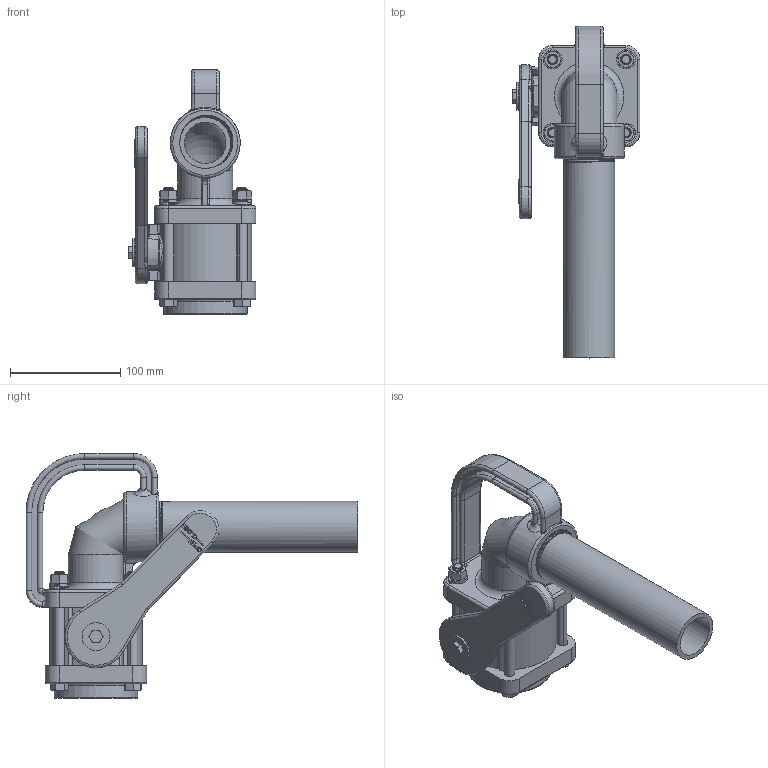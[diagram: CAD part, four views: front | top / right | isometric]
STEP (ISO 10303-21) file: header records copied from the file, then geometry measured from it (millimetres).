
FILE_DESCRIPTION(/* description */ ('Alibre Inc.'),/* implementation_level */ '2;1');
FILE_NAME(/* name */ 'export0',/* time_stamp */ '2017-07-12T09:12:35-04:00',/* author */ (''),/* organization */ (''),/* preprocessor_version */ 'ST-DEVELOPER v14',/* originating_system */ 'Alibre',/* authorisation */ '');
FILE_SCHEMA (('CONFIG_CONTROL_DESIGN'));
Length unit declared in the file: centimetre
Products named in the file (16): ID_1; ID_2; ID_3; ID_4; ID_5; ID_6; ID_7; ID_8; ID_9; ID_10; ID_11; ID_12; ID_13
Bounding box: 116 x 301.22 x 222.25 mm (x, y, z)
Volume: 842102.9 mm3; surface area: 287826.7 mm2
Topology: 26 solids, 26 shells, 1125 faces, 2882 edges, 1837 vertices
Faces by surface type: cylinder 407, plane 303, cone 184, bspline 158, torus 66, sphere 7
Full cylindrical faces by diameter (mm): 4.826 x2, 4.978 x1, 7.112 x1, 9.652 x8, 19.05 x3, 21.59 x2, 22.352 x1, 24.892 x1, 25.4 x3, 31.496 x2, 32.258 x1, 37.592 x1, 38.1 x2, 38.354 x1, 39.624 x3, 46.228 x11, 61.468 x1, 63.5 x3, 65.278 x1, 71.12 x2, 71.628 x2, 75.946 x1
Entity records: 96201 total; most frequent: CARTESIAN_POINT 77445, ORIENTED_EDGE 3914, DIRECTION 2736, EDGE_CURVE 1957, VERTEX_POINT 1281, AXIS2_PLACEMENT_3D 1130, FACE_BOUND 912, EDGE_LOOP 911
